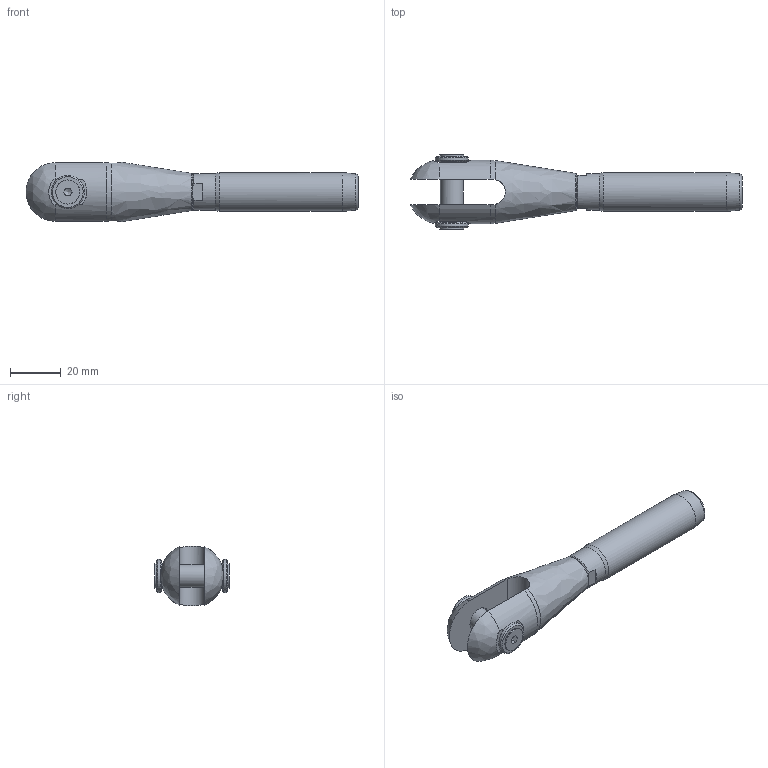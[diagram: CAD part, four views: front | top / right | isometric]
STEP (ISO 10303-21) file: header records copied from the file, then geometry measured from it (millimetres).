
FILE_DESCRIPTION(/* description */ (''),/* implementation_level */ '2;1');
FILE_NAME(/* name */ 'MAC-R 06_S355',/* time_stamp */ '2023-05-23T17:52:42+02:00',/* author */ (''),/* organization */ (''),/* preprocessor_version */ 'ST-DEVELOPER v16.5',/* originating_system */ 'Rhino 7.22',/* authorisation */ '');
FILE_SCHEMA (('CONFIG_CONTROL_DESIGN'));
Length unit declared in the file: millimetre
Products named in the file (1): Document
Bounding box: 130.43 x 29.31 x 23.41 mm (x, y, z)
Volume: 29239.6 mm3; surface area: 12886.5 mm2
Topology: 7 solids, 7 shells, 88 faces, 245 edges, 170 vertices
Faces by surface type: plane 36, bspline 28, cylinder 24
Full cylindrical faces by diameter (mm): 4.134 x2, 5 x2, 5.5 x2, 9 x1, 9.43 x2, 10 x2, 10.106 x1, 12 x1, 13 x2, 14.5 x1, 15.3 x1
Entity records: 3450 total; most frequent: CARTESIAN_POINT 1895, ORIENTED_EDGE 480, EDGE_CURVE 240, VERTEX_POINT 170, EDGE_LOOP 100, B_SPLINE_CURVE_WITH_KNOTS 93, ADVANCED_FACE 88, FACE_OUTER_BOUND 88
